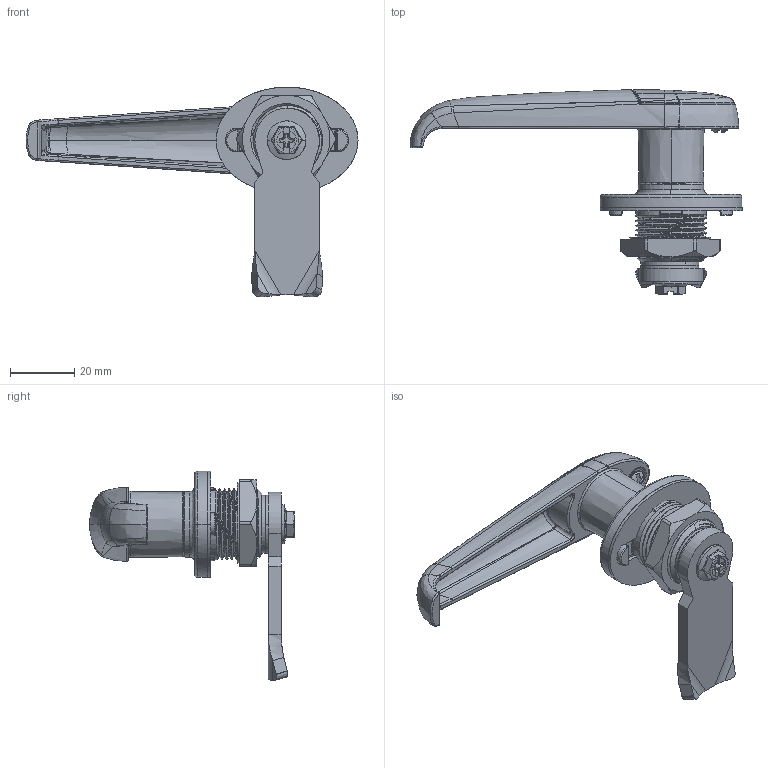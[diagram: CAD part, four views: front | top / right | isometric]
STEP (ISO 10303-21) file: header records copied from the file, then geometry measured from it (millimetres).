
FILE_DESCRIPTION (( 'STEP AP214' ), '1' );
FILE_NAME ('CUYUE.MS308-3.STEP', '2026-07-06T05:19:22', ( '' ), ( '' ), 'SwSTEP 2.0', 'SolidWorks 2020', '' );
FILE_SCHEMA (( 'AUTOMOTIVE_DESIGN' ));
Length unit declared in the file: millimetre
Products named in the file (15): 8SJ_MS843-1_0500^MS317-1A; 8SJ_MS705_0760^MS317-1A; 8SJ_MS317-1A_0010^MS317-1A; 5SJ_L2C0111_0001_ASM^MS317-1A; 8SJ_L2C0111_0250^5SJ_L2C0111_0001_ASM_MS317-1A; M4X5^MS317-1A; 8SJ_MS317-1A_0210^MS317-1A; 8SJ_MS317-1A_0020^MS317-1A; SW5X10^MS317-1A; PINGDIANPIAN^MS317-1A; 8SJ_L2C0111_0040^5SJ_L2C0111_0001_ASM_MS317-1A; CUYUE.MS308-3; S1B4500^MS317-1A; 8SJ_MS317-1A_0510^MS317-1A; 8SJ_MS807_0510^MS317-1A
Assembly tree (15 placements, depth 3):
  CUYUE.MS308-3
    5SJ_L2C0111_0001_ASM^MS317-1A
      8SJ_L2C0111_0040^5SJ_L2C0111_0001_ASM_MS317-1A
      8SJ_L2C0111_0250^5SJ_L2C0111_0001_ASM_MS317-1A
    8SJ_MS317-1A_0010^MS317-1A
    8SJ_MS317-1A_0020^MS317-1A
    8SJ_MS317-1A_0510^MS317-1A
    8SJ_MS705_0760^MS317-1A
    8SJ_MS843-1_0500^MS317-1A  x2
    S1B4500^MS317-1A
    SW5X10^MS317-1A
    8SJ_MS317-1A_0210^MS317-1A
    M4X5^MS317-1A
    8SJ_MS807_0510^MS317-1A
    PINGDIANPIAN^MS317-1A
Bounding box: 103.01 x 63.5 x 65.07 mm (x, y, z)
Volume: 32574.5 mm3; surface area: 28022.2 mm2
Topology: 12 solids, 18 shells, 1138 faces, 2971 edges, 1795 vertices
Faces by surface type: bspline 551, cylinder 327, plane 213, cone 40, torus 7
Entity records: 81585 total; most frequent: CARTESIAN_POINT 48752, ORIENTED_EDGE 5710, DIRECTION 3144, EDGE_CURVE 2861, VERTEX_POINT 1781, B_SPLINE_CURVE_WITH_KNOTS 1316, AXIS2_PLACEMENT_3D 1237, EDGE_LOOP 1170
